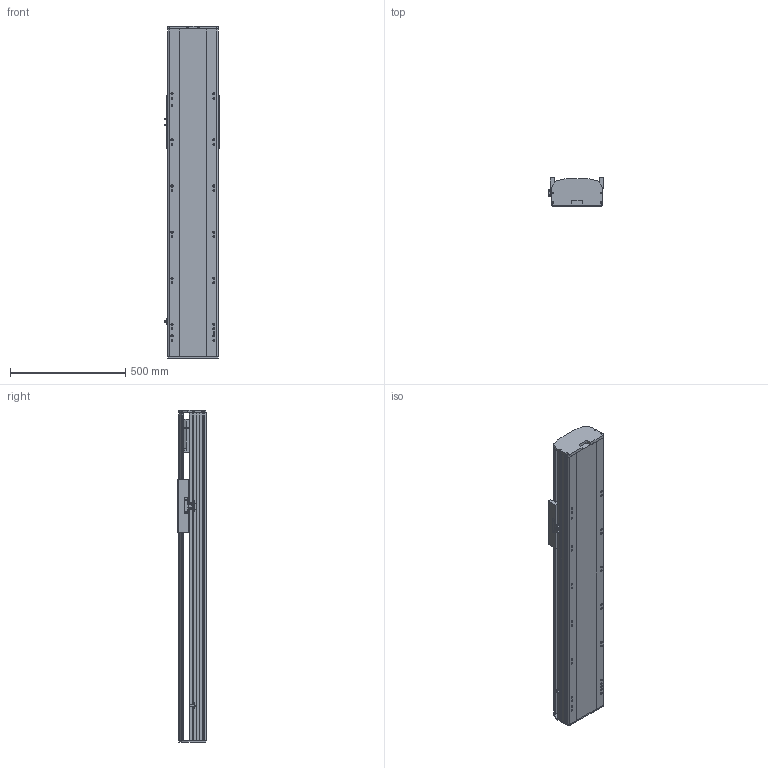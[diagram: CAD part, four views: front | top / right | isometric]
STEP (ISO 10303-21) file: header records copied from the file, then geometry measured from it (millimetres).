
FILE_DESCRIPTION (( 'STEP AP214' ), '1' );
FILE_NAME ('RTH22-XX-850-B-M75-C4.STEP', '2025-10-24T10:31:27', ( 'Microsoft' ), ( 'Microsoft' ), 'SwSTEP 2.0', 'SolidWorks 2018', '' );
FILE_SCHEMA (( 'AUTOMOTIVE_DESIGN' ));
Length unit declared in the file: millimetre
Products named in the file (9): N_RTH22-E-004-SFS25賑釱^RTH22-XX-XX-B-M75-C4; N_RTH22-GY-013外置感应片^RTH22-XX-XX-B-M75-C4; N_OMRON EE-SX672 传感器^RTH22-XX-XX-B-M75-C4; N_750W萇儂^RTH22-XX-XX-B-M75-C4; N_RTH22-B-007奻裔^RTH22-XX-XX-B-M75-C4; N_RTH22-B-008萇儂啣^RTH22-XX-XX-B-M75-C4; RTH22-XX-850-B-M75-C4; N_RTH22-B-011菁釱^RTH22-XX-XX-B-M75-C4; N_RTH22-GY-001耜裔^RTH22-XX-XX-B-M75-C4
Assembly tree (10 placements, depth 2):
  RTH22-XX-850-B-M75-C4
    N_RTH22-B-011菁釱^RTH22-XX-XX-B-M75-C4
    N_RTH22-GY-001耜裔^RTH22-XX-XX-B-M75-C4
    N_750W萇儂^RTH22-XX-XX-B-M75-C4
    N_RTH22-B-008萇儂啣^RTH22-XX-XX-B-M75-C4
    N_RTH22-B-007奻裔^RTH22-XX-XX-B-M75-C4
    N_OMRON EE-SX672 传感器^RTH22-XX-XX-B-M75-C4  x3
    N_RTH22-GY-013外置感应片^RTH22-XX-XX-B-M75-C4
    N_RTH22-E-004-SFS25賑釱^RTH22-XX-XX-B-M75-C4
Bounding box: 238.5 x 122 x 1440 mm (x, y, z)
Volume: 19726677.1 mm3; surface area: 2041201.9 mm2
Topology: 10 solids, 10 shells, 1533 faces, 4200 edges, 2713 vertices
Faces by surface type: plane 754, cylinder 442, bspline 279, cone 58
Entity records: 38091 total; most frequent: CARTESIAN_POINT 11845, ORIENTED_EDGE 5376, DIRECTION 5046, EDGE_CURVE 2688, VERTEX_POINT 1749, AXIS2_PLACEMENT_3D 1698, VECTOR 1650, LINE 1650
